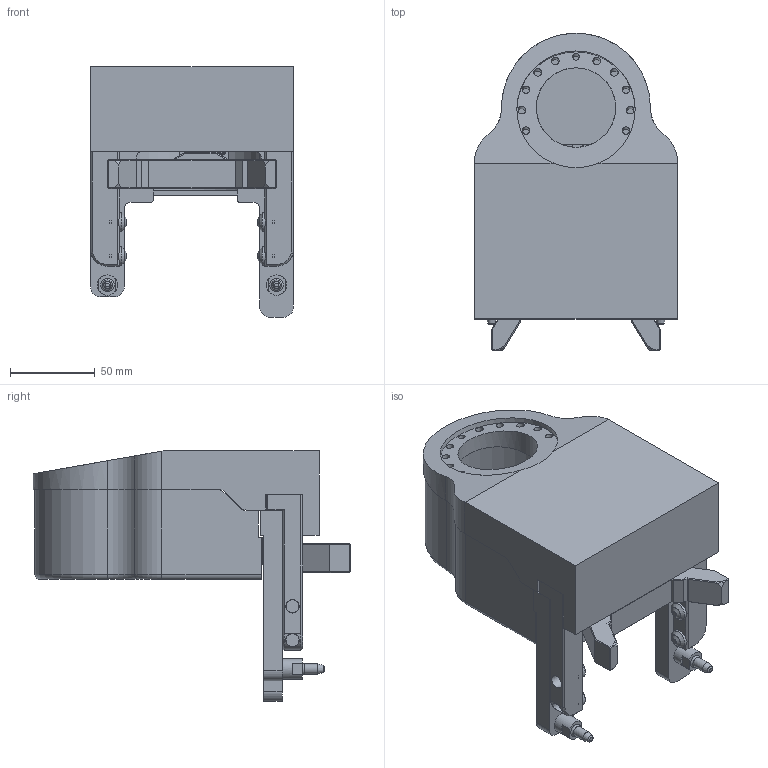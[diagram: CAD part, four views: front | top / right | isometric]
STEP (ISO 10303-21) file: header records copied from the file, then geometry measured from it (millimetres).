
FILE_DESCRIPTION (( 'STEP AP214' ), '1' );
FILE_NAME ('66925.STEP', '2025-09-26T11:44:06', ( '' ), ( '' ), 'SwSTEP 2.0', 'SolidWorks 2021', '' );
FILE_SCHEMA (( 'AUTOMOTIVE_DESIGN' ));
Length unit declared in the file: millimetre
Products named in the file (1): 66925
Bounding box: 120 x 187.7 x 148 mm (x, y, z)
Volume: 685575 mm3; surface area: 186620.7 mm2
Topology: 15 solids, 15 shells, 729 faces, 1798 edges, 1145 vertices
Faces by surface type: plane 432, cylinder 198, cone 72, torus 25, bspline 2
Full cylindrical faces by diameter (mm): 3.242 x8, 4 x5, 4.134 x2, 4.5 x11, 5 x1, 6 x11, 6.8 x2, 7.88 x2, 8 x18, 8.008 x2, 8.02 x4, 8.5 x4, 9 x1, 9.2 x4, 11 x8, 12 x2, 16 x2, 47 x1, 70 x1
Entity records: 28612 total; most frequent: CARTESIAN_POINT 4026, DIRECTION 3379, ORIENTED_EDGE 3152, EDGE_CURVE 1576, AXIS2_PLACEMENT_3D 1206, VERTEX_POINT 1090, EDGE_LOOP 988, VECTOR 967
